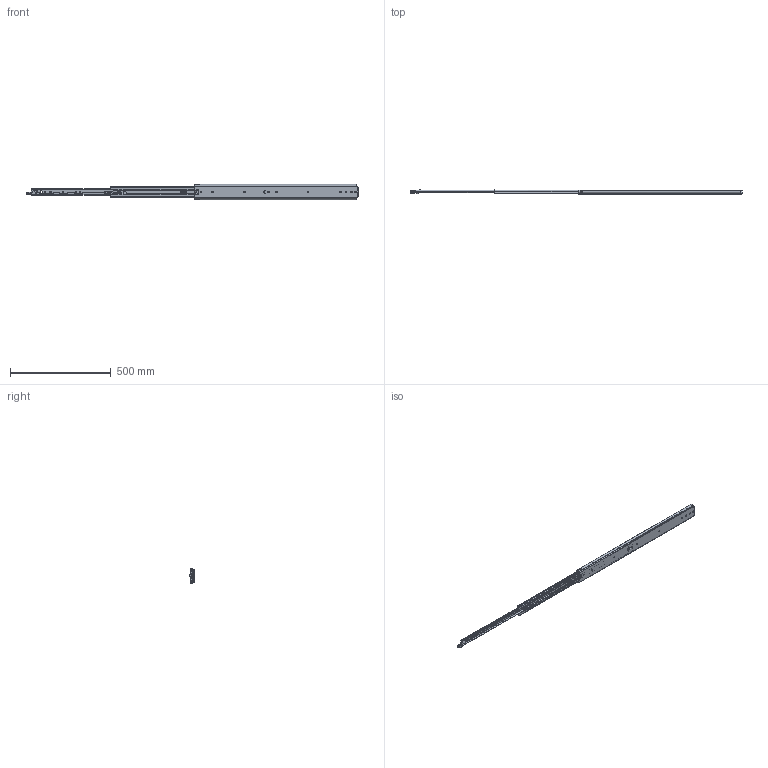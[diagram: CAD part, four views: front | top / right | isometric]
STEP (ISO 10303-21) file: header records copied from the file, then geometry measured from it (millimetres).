
FILE_DESCRIPTION((''),'2;1');
FILE_NAME('DG-76-3S-32ZUO_ASM','2023-05-10T',('jishu015'),(''),'PRO/ENGINEER BY PARAMETRIC TECHNOLOGY CORPORATION, 2010280','PRO/ENGINEER BY PARAMETRIC TECHNOLOGY CORPORATION, 2010280','');
FILE_SCHEMA(('CONFIG_CONTROL_DESIGN'));
Products named in the file (29): KP-76-04WAIKE-1816______; 1076-WAIKEZIDANJIAO16______; WAIK16_______ASM; 1076XIAOZHUTIAO-22516______; 16______; 1076XIAOZHUTIAO-17516_______ASM; KP-76-04ZHONGGUI1816______; 76CHANGGUIZHONGGUIJIAO16______; 3X6WODIN16______; ZHONGGUIBAIKOU16______; PJ-76-30_____; PJ-76-03_____; 76-XIAOZHUJIA-11_____; GANGZHU-XIAO_____; ZHUJIA-XIAO______ASM; ZHONGGUI6_______ASM; KP-76-04NEIGUI1816______; PJ-76-31_____; DAOGPIAN16______; 1053-3SBANJ01_____; JIAO-11_____; 76XINSUOKOU_____; PJ-338_____; PJ-356_____; PJ-357_____; PJ-336_____; M4X4_____; NEIGUI16_______ASM; DG-76-3S-32ZUO_ASM
Assembly tree (70 placements, depth 4):
  DG-76-3S-32ZUO_ASM
    WAIK16_______ASM
      KP-76-04WAIKE-1816______
      1076-WAIKEZIDANJIAO16______  x2
    1076XIAOZHUTIAO-17516_______ASM  x2
      1076XIAOZHUTIAO-22516______
      16______
    ZHONGGUI6_______ASM
      KP-76-04ZHONGGUI1816______
      76CHANGGUIZHONGGUIJIAO16______
      3X6WODIN16______
      ZHONGGUIBAIKOU16______
      PJ-76-30_____
      PJ-76-03_____
      ZHUJIA-XIAO______ASM
        76-XIAOZHUJIA-11_____
        GANGZHU-XIAO_____  x28
    NEIGUI16_______ASM
      KP-76-04NEIGUI1816______
      PJ-76-31_____
      DAOGPIAN16______
      1053-3SBANJ01_____
      JIAO-11_____
      76XINSUOKOU_____
      PJ-338_____
      PJ-356_____
      PJ-357_____
      PJ-336_____
      M4X4_____
Bounding box: 1651.52 x 20.7 x 75.3 mm (x, y, z)
Volume: 534497.6 mm3; surface area: 514840.3 mm2
Topology: 80 solids, 80 shells, 2081 faces, 6250 edges, 3964 vertices
Faces by surface type: plane 1071, cylinder 764, sphere 119, bspline 60, cone 28, extrusion 23, torus 16
Entity records: 68262 total; most frequent: CARTESIAN_POINT 18458, ORIENTED_EDGE 10832, DIRECTION 9907, EDGE_CURVE 5416, VERTEX_POINT 3528, AXIS2_PLACEMENT_3D 3406, VECTOR 3095, LINE 3072
